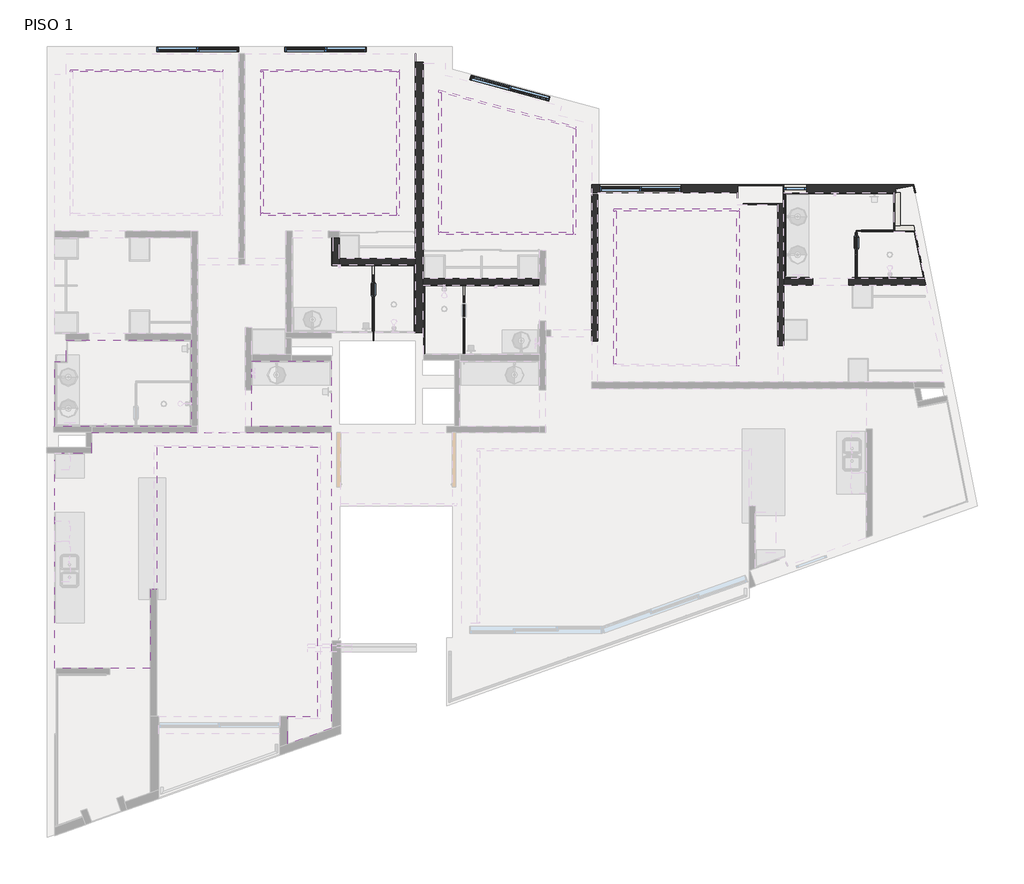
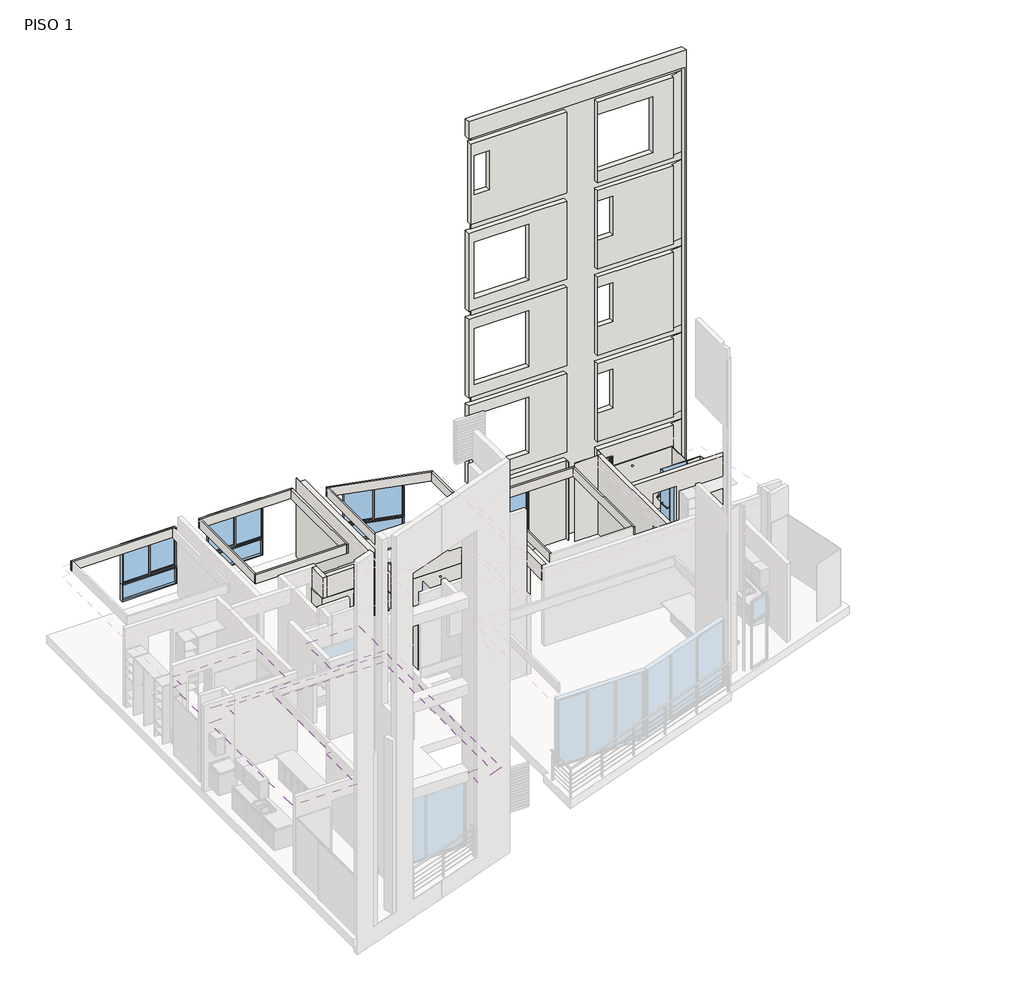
# One storey, part 3 of 4: 41 walls, 9 windows, 3 coverings.
"""IFC4 building model written with IfcOpenShell, lengths in millimetres."""

from ifc_helpers import new_model, si_unit, frame, origin, place, context, project, spatial, polyline, outline, extrude, faceted_brep, transform, mapped, element, save
from components import window_b75bd1a9, window_36b55308, window_504e83ce, window_e5abd41f, window_b7257eee, window_608fdc28, window_9818a119

model = new_model("IFC4")

# Units and contexts
model_context = context("Model", 3, world=origin())
ifc_project = project(units=[si_unit("LENGTHUNIT", "METRE", prefix="MILLI")], contexts=[model_context])

# Site, building, storey
site = spatial("IfcSite", under=ifc_project)
building = spatial("IfcBuilding", under=site)
storey = spatial("IfcBuildingStorey", under=building, Name="PISO 1", Elevation=3000.0)

# Coverings
placement = place(None, origin())
element("IfcCovering", 1, ObjectType="Plafond Tablaroca", at=placement, inside=storey, context=model_context, shape_type="SweptSolid", body=[
    extrude(outline(polyline([(40234.5059119, 31304.0104769), (40234.5059119, 29864.010184), (38484.5059119, 29864.010184), (38484.5059119, 31304.0104769), (39294.5300226, 31304.0104769), (40234.5059119, 31304.0104769)])), frame((0.0, 0.0, 5350.0), z_axis=(0.0, 0.0, 1.0), x_axis=(1.0, 0.0, 0.0)), (0.0, 0.0, 1.0), 52.7),
])
element("IfcCovering", 2, ObjectType="Plafond Tablaroca", at=placement, inside=storey, context=model_context, shape_type="SweptSolid", body=[
    extrude(outline(polyline([(34903.8589874, 29864.010184), (34143.8589874, 29864.010184), (34143.8589874, 31298.9733508), (34398.8589874, 31298.9733508), (34398.8589874, 31768.9733508), (37154.5300226, 31768.9733508), (37154.5300226, 29864.010184), (34903.8589874, 29864.010184)])), frame((0.0, 0.0, 5350.0), z_axis=(0.0, 0.0, 1.0), x_axis=(1.0, 0.0, 0.0)), (0.0, 0.0, 1.0), 52.7),
])
element("IfcCovering", 3, ObjectType="Plafond Tablaroca", at=placement, inside=storey, context=model_context, shape_type="Brep", body=[
    faceted_brep([(34963.8589874, 29274.010184, 5402.7), (34143.8589874, 29274.010184, 5402.7), (34143.8589874, 25532.4819737, 5402.7), (34143.8589874, 24532.4819685, 5402.7), (36254.5300226, 24532.4819685, 5402.7), (36254.5300226, 26269.0176189, 5402.7), (36341.8300226, 26269.0176189, 5402.7), (36394.5300226, 26269.0176189, 5402.7), (36394.5300226, 29394.010184, 5402.7), (39939.5059119, 29394.010184, 5402.7), (39939.5059119, 23470.9402233, 5402.7), (39284.5057602, 23470.9402233, 5402.7), (39284.5057602, 23418.2402233, 5402.7), (39284.5057602, 22864.5526055, 5402.7), (40234.5059119, 23203.0885419, 5402.7), (40234.5059119, 29724.010184, 5402.7), (34963.8589874, 29724.010184, 5402.7), (34963.8589874, 29274.010184, 5350.0), (34963.8589874, 29724.010184, 5350.0), (40234.5059119, 29724.010184, 5350.0), (40234.5059119, 23203.0885419, 5350.0), (39284.5057602, 22864.5526055, 5350.0), (39284.5057602, 23418.2402233, 5350.0), (39284.5057602, 23470.9402233, 5350.0), (39939.5059119, 23470.9402233, 5350.0), (39939.5059119, 29394.010184, 5350.0), (36394.5300226, 29394.010184, 5350.0), (36394.5300226, 26269.0176189, 5350.0), (36254.5300226, 26269.0176189, 5350.0), (36254.5300226, 24532.4819685, 5350.0), (34143.8589874, 24532.4819685, 5350.0), (34143.8589874, 25532.4819737, 5350.0), (34143.8589874, 29274.010184, 5350.0)], [[[0, 1, 2, 3, 4, 5, 6, 7, 8, 9, 10, 11, 12, 13, 14, 15, 16]], [[17, 18, 19, 20, 21, 22, 23, 24, 25, 26, 27, 28, 29, 30, 31, 32]], [[1, 0, 17, 32]], [[2, 1, 32, 31]], [[3, 2, 31, 30]], [[4, 3, 30, 29]], [[5, 4, 29, 28]], [[7, 6, 5, 28, 27]], [[8, 7, 27, 26]], [[9, 8, 26, 25]], [[10, 9, 25, 24]], [[11, 10, 24, 23]], [[12, 11, 23, 22]], [[13, 12, 22, 21]], [[14, 13, 21, 20]], [[15, 14, 20, 19]], [[16, 15, 19, 18]], [[0, 16, 18, 17]]]),
])

# Walls
element("IfcWall", 4, ObjectType="TABLAROCA - 2 CAPAS 1/2\"", at=placement, inside=storey, context=model_context, shape_type="Brep", body=[
    faceted_brep([(52656.6303003, 35014.0104642, 3000.0), (52656.6303003, 34994.0104642, 3000.0), (52656.6303003, 34291.4104642, 3000.0), (52656.6303003, 34291.4104642, 4000.0), (52656.6303003, 35014.0104642, 4000.0), (52774.0303003, 35014.0104642, 3000.0), (52774.0303003, 35014.0104642, 4000.0), (52774.0303003, 34291.4104642, 4000.0), (52774.0303003, 34291.4104642, 3000.0)], [[[0, 1, 2, 3, 4]], [[5, 6, 7, 8]], [[2, 1, 0, 5, 8]], [[4, 3, 7, 6]], [[3, 2, 8, 7]], [[0, 4, 6, 5]]]),
])
element("IfcWall", 5, ObjectType="TABLAROCA - 2 CAPAS 1/2\"", at=placement, inside=storey, context=model_context, shape_type="Brep", body=[
    faceted_brep([(52656.6303003, 34174.0104642, 3000.0), (53100.1136077, 34174.0104642, 3000.0), (53100.1136077, 34174.0104642, 4000.0), (52656.6303003, 34174.0104642, 4000.0), (52656.6303003, 34291.4104642, 3000.0), (52656.6303003, 34291.4104642, 4000.0), (52774.0303003, 34291.4104642, 4000.0), (53076.5996985, 34291.4104642, 4000.0), (53076.5996985, 34291.4104642, 3000.0), (52774.0303003, 34291.4104642, 3000.0)], [[[0, 1, 2, 3]], [[4, 5, 6, 7, 8, 9]], [[1, 0, 4, 9, 8]], [[3, 2, 7, 6, 5]], [[0, 3, 5, 4]], [[2, 1, 8, 7]]]),
])
element("IfcWall", 6, ObjectType="Plafond tablaroca", at=placement, inside=storey, context=model_context, shape_type="Brep", body=[
    faceted_brep([(34491.1589874, 37680.4026232, 5402.7), (34543.8589874, 37680.4026232, 5402.7), (37794.5300226, 37680.4026232, 5402.7), (37847.2300226, 37680.4026232, 5402.7), (37847.2300226, 37680.4026232, 5720.0), (37794.5300226, 37680.4026232, 5720.0), (34543.8589874, 37680.4026232, 5720.0), (34491.1589874, 37680.4026232, 5720.0), (34491.1589874, 37733.1026232, 5402.7), (34491.1589874, 37733.1026232, 5720.0), (37847.2300226, 37733.1026232, 5720.0), (37847.2300226, 37733.1026232, 5402.7)], [[[0, 1, 2, 3, 4, 5, 6, 7]], [[8, 9, 10, 11]], [[4, 3, 11, 10]], [[0, 7, 9, 8]], [[7, 6, 5, 4, 10, 9]], [[3, 2, 1, 0, 8, 11]]]),
])
element("IfcWall", 7, ObjectType="Plafond tablaroca", at=placement, inside=storey, context=model_context, shape_type="Brep", body=[
    faceted_brep([(38681.8300226, 37680.4026232, 5402.7), (38734.5300226, 37680.4026232, 5402.7), (41684.5059119, 37680.4026232, 5402.7), (41737.2059119, 37680.4026232, 5402.7), (41737.2059119, 37680.4026232, 5720.0), (41684.5059119, 37680.4026232, 5720.0), (38734.5300226, 37680.4026232, 5720.0), (38681.8300226, 37680.4026232, 5720.0), (38681.8300226, 37733.1026232, 5402.7), (38681.8300226, 37733.1026232, 5720.0), (41737.2059119, 37733.1026232, 5720.0), (41737.2059119, 37733.1026232, 5402.7)], [[[0, 1, 2, 3, 4, 5, 6, 7]], [[8, 9, 10, 11]], [[4, 3, 11, 10]], [[0, 7, 9, 8]], [[3, 2, 1, 0, 8, 11]], [[7, 6, 5, 4, 10, 9]]]),
])
element("IfcWall", 8, ObjectType="Plafond tablaroca", at=placement, inside=storey, context=model_context, shape_type="Brep", body=[
    faceted_brep([(41684.5059119, 37680.4026232, 5402.7), (41684.5059119, 34568.9785701, 5402.7), (41684.5059119, 34516.2785701, 5402.7), (41684.5059119, 34516.2785701, 5720.0), (41684.5059119, 34568.9785701, 5720.0), (41684.5059119, 37680.4026232, 5720.0), (41737.2059119, 37680.4026232, 5402.7), (41737.2059119, 37680.4026232, 5720.0), (41737.2059119, 34516.2785701, 5720.0), (41737.2059119, 34516.2785701, 5402.7)], [[[0, 1, 2, 3, 4, 5]], [[6, 7, 8, 9]], [[0, 5, 7, 6]], [[3, 2, 9, 8]], [[2, 1, 0, 6, 9]], [[5, 4, 3, 8, 7]]]),
])
element("IfcWall", 9, ObjectType="Plafond tablaroca", at=placement, inside=storey, context=model_context, shape_type="Brep", body=[
    faceted_brep([(41684.5059119, 34568.9785701, 5402.7), (38734.5300226, 34568.9785701, 5402.7), (38681.8300226, 34568.9785701, 5402.7), (38681.8300226, 34568.9785701, 5720.0), (38734.5300226, 34568.9785701, 5720.0), (41684.5059119, 34568.9785701, 5720.0), (41684.5059119, 34516.2785701, 5402.7), (41684.5059119, 34516.2785701, 5720.0), (38681.8300226, 34516.2785701, 5720.0), (38681.8300226, 34516.2785701, 5402.7)], [[[0, 1, 2, 3, 4, 5]], [[6, 7, 8, 9]], [[0, 5, 7, 6]], [[3, 2, 9, 8]], [[2, 1, 0, 6, 9]], [[5, 4, 3, 8, 7]]]),
])
element("IfcWall", 10, ObjectType="Plafond tablaroca", at=placement, inside=storey, context=model_context, shape_type="SweptSolid", body=[
    extrude(outline(polyline([(38734.5300226, 37680.4026232), (38734.5300226, 34568.9785701), (38681.8300226, 34568.9785701), (38681.8300226, 37680.4026232), (38734.5300226, 37680.4026232)])), frame((0.0, 0.0, 5402.7), z_axis=(0.0, 0.0, 1.0), x_axis=(1.0, 0.0, 0.0)), (0.0, 0.0, 1.0), 317.3),
])
element("IfcWall", 11, ObjectType="Plafond tablaroca", at=placement, inside=storey, context=model_context, shape_type="Brep", body=[
    faceted_brep([(42611.8059119, 37233.5489662, 5402.7), (42664.5059119, 37219.3779563, 5402.7), (45574.5059119, 36436.8800645, 5402.7), (45627.2059119, 36422.7090546, 5402.7), (45627.2059119, 36422.7090546, 5720.0), (45574.5059119, 36436.8800645, 5720.0), (42664.5059119, 37219.3779563, 5720.0), (42611.8059119, 37233.5489662, 5720.0), (42611.8059119, 37288.121006, 5402.7), (42611.8059119, 37288.121006, 5720.0), (45627.2059119, 36477.2810943, 5720.0), (45627.2059119, 36477.2810943, 5402.7)], [[[0, 1, 2, 3, 4, 5, 6, 7]], [[8, 9, 10, 11]], [[4, 3, 11, 10]], [[0, 7, 9, 8]], [[3, 2, 1, 0, 8, 11]], [[7, 6, 5, 4, 10, 9]]]),
])
element("IfcWall", 12, ObjectType="Plafond tablaroca", at=placement, inside=storey, context=model_context, shape_type="Brep", body=[
    faceted_brep([(45574.5059119, 36436.8800645, 5402.7), (45574.5059119, 34144.0113905, 5402.7), (45574.5059119, 34091.3113905, 5402.7), (45574.5059119, 34091.3113905, 5720.0), (45574.5059119, 34144.0113905, 5720.0), (45574.5059119, 36436.8800645, 5720.0), (45627.2059119, 36422.7090546, 5402.7), (45627.2059119, 36422.7090546, 5720.0), (45627.2059119, 34091.3113905, 5720.0), (45627.2059119, 34091.3113905, 5402.7)], [[[0, 1, 2, 3, 4, 5]], [[6, 7, 8, 9]], [[0, 5, 7, 6]], [[3, 2, 9, 8]], [[2, 1, 0, 6, 9]], [[5, 4, 3, 8, 7]]]),
])
element("IfcWall", 13, ObjectType="Plafond tablaroca", at=placement, inside=storey, context=model_context, shape_type="Brep", body=[
    faceted_brep([(45574.5059119, 34144.0113905, 5402.7), (42664.5059119, 34144.0113905, 5402.7), (42611.8059119, 34144.0113905, 5402.7), (42611.8059119, 34144.0113905, 5720.0), (42664.5059119, 34144.0113905, 5720.0), (45574.5059119, 34144.0113905, 5720.0), (45574.5059119, 34091.3113905, 5402.7), (45574.5059119, 34091.3113905, 5720.0), (42611.8059119, 34091.3113905, 5720.0), (42611.8059119, 34091.3113905, 5402.7)], [[[0, 1, 2, 3, 4, 5]], [[6, 7, 8, 9]], [[0, 5, 7, 6]], [[3, 2, 9, 8]], [[2, 1, 0, 6, 9]], [[5, 4, 3, 8, 7]]]),
])
element("IfcWall", 14, ObjectType="Plafond tablaroca", at=placement, inside=storey, context=model_context, shape_type="SweptSolid", body=[
    extrude(outline(polyline([(42664.5059119, 37219.3779563), (42664.5059119, 34144.0113905), (42611.8059119, 34144.0113905), (42611.8059119, 37233.5489662), (42664.5059119, 37219.3779563)])), frame((0.0, 0.0, 5402.7), z_axis=(0.0, 0.0, 1.0), x_axis=(1.0, 0.0, 0.0)), (0.0, 0.0, 1.0), 317.3),
])
element("IfcWall", 15, ObjectType="Plafond tablaroca", at=placement, inside=storey, context=model_context, shape_type="Brep", body=[
    faceted_brep([(46461.8059119, 34614.0104642, 5402.7), (46514.5059119, 34614.0104642, 5402.7), (49174.4822189, 34614.0104642, 5402.7), (49227.1822189, 34614.0104642, 5402.7), (49227.1822189, 34614.0104642, 5720.0), (49174.4822189, 34614.0104642, 5720.0), (46514.5059119, 34614.0104642, 5720.0), (46461.8059119, 34614.0104642, 5720.0), (46461.8059119, 34666.7104642, 5402.7), (46461.8059119, 34666.7104642, 5720.0), (49227.1822189, 34666.7104642, 5720.0), (49227.1822189, 34666.7104642, 5402.7)], [[[0, 1, 2, 3, 4, 5, 6, 7]], [[8, 9, 10, 11]], [[4, 3, 11, 10]], [[0, 7, 9, 8]], [[3, 2, 1, 0, 8, 11]], [[7, 6, 5, 4, 10, 9]]]),
])
element("IfcWall", 16, ObjectType="Plafond tablaroca", at=placement, inside=storey, context=model_context, shape_type="Brep", body=[
    faceted_brep([(49174.4822189, 34614.0104642, 5402.7), (49174.4822189, 31244.0100923, 5402.7), (49174.4822189, 31191.3100923, 5402.7), (49174.4822189, 31191.3100923, 5720.0), (49174.4822189, 31244.0100923, 5720.0), (49174.4822189, 34614.0104642, 5720.0), (49227.1822189, 34614.0104642, 5402.7), (49227.1822189, 34614.0104642, 5720.0), (49227.1822189, 31191.3100923, 5720.0), (49227.1822189, 31191.3100923, 5402.7)], [[[0, 1, 2, 3, 4, 5]], [[6, 7, 8, 9]], [[0, 5, 7, 6]], [[3, 2, 9, 8]], [[2, 1, 0, 6, 9]], [[5, 4, 3, 8, 7]]]),
])
element("IfcWall", 17, ObjectType="Plafond tablaroca", at=placement, inside=storey, context=model_context, shape_type="SweptSolid", body=[
    extrude(outline(polyline([(46514.5059119, 34614.0104642), (46514.5059119, 31244.0100923), (46461.8059119, 31244.0100923), (46461.8059119, 34614.0104642), (46514.5059119, 34614.0104642)])), frame((0.0, 0.0, 5402.7), z_axis=(0.0, 0.0, 1.0), x_axis=(1.0, 0.0, 0.0)), (0.0, 0.0, 1.0), 317.3),
])
element("IfcWall", 18, ObjectType="Cerámica baño", at=placement, inside=storey, context=model_context, shape_type="Brep", body=[
    faceted_brep([(40249.5059119, 33408.9784839, 3000.0), (42064.5059119, 33408.9784839, 3000.0), (42084.5059119, 33408.9784839, 3000.0), (42084.5059119, 33408.9784839, 5000.0), (42064.5059119, 33408.9784839, 5000.0), (40249.5059119, 33408.9784839, 5000.0), (40249.5059119, 33428.9784839, 3000.0), (40249.5059119, 33428.9784839, 5000.0), (40269.5059119, 33428.9784839, 5000.0), (42084.5059119, 33428.9784839, 5000.0), (42084.5059119, 33428.9784839, 3000.0), (40269.5059119, 33428.9784839, 3000.0)], [[[0, 1, 2, 3, 4, 5]], [[6, 7, 8, 9, 10, 11]], [[2, 1, 0, 6, 11, 10]], [[5, 4, 3, 9, 8, 7]], [[3, 2, 10, 9]], [[0, 5, 7, 6]]]),
])
element("IfcWall", 19, ObjectType="Cerámica baño", at=placement, inside=storey, context=model_context, shape_type="Brep", body=[
    faceted_brep([(42064.5059119, 33408.9784839, 3000.0), (42064.5059119, 31953.9733508, 3000.0), (42064.5059119, 31933.9733508, 3000.0), (42064.5059119, 31933.9733508, 5000.0), (42064.5059119, 31953.9733508, 5000.0), (42064.5059119, 33408.9784839, 5000.0), (42084.5059119, 33408.9784839, 3000.0), (42084.5059119, 33408.9784839, 5000.0), (42084.5059119, 31933.9733508, 5000.0), (42084.5059119, 31933.9733508, 3000.0)], [[[0, 1, 2, 3, 4, 5]], [[6, 7, 8, 9]], [[2, 1, 0, 6, 9]], [[5, 4, 3, 8, 7]], [[3, 2, 9, 8]], [[0, 5, 7, 6]]]),
])
element("IfcWall", 20, ObjectType="Cerámica baño", at=placement, inside=storey, context=model_context, shape_type="Brep", body=[
    faceted_brep([(52636.6303003, 34994.0104642, 3000.0), (52636.6303003, 34154.0104642, 3000.0), (52636.6303003, 34154.0104642, 5000.0), (52636.6303003, 34994.0104642, 5000.0), (52656.6303003, 34994.0104642, 3000.0), (52656.6303003, 34994.0104642, 5000.0), (52656.6303003, 34174.0104642, 5000.0), (52656.6303003, 34154.0104642, 5000.0), (52656.6303003, 34154.0104642, 3000.0), (52656.6303003, 34174.0104642, 3000.0)], [[[0, 1, 2, 3]], [[4, 5, 6, 7, 8, 9]], [[1, 0, 4, 9, 8]], [[3, 2, 7, 6, 5]], [[2, 1, 8, 7]], [[0, 3, 5, 4]]]),
])
element("IfcWall", 21, ObjectType="Cerámica baño", at=placement, inside=storey, context=model_context, shape_type="Brep", body=[
    faceted_brep([(52656.6303003, 34154.0104642, 5000.0), (52656.6303003, 34154.0104642, 3000.0), (53083.7221726, 34154.0104642, 3000.0), (53104.1193844, 34154.0104642, 3000.0), (53104.1193844, 34154.0104642, 5000.0), (53083.7221726, 34154.0104642, 5000.0), (52656.6303003, 34174.0104642, 3000.0), (52656.6303003, 34174.0104642, 5000.0), (53100.1136077, 34174.0104642, 5000.0), (53100.1136077, 34174.0104642, 3000.0)], [[[0, 1, 2, 3, 4, 5]], [[6, 7, 8, 9]], [[3, 2, 1, 6, 9]], [[0, 5, 4, 8, 7]], [[4, 3, 9, 8]], [[0, 7, 6, 1]]]),
])
element("IfcWall", 22, ObjectType="Cerámica baño", at=placement, inside=storey, context=model_context, shape_type="Brep", body=[
    faceted_brep([(53083.7221726, 34154.0104642, 3000.0), (53286.0137116, 33144.0113812, 3000.0), (53290.0194883, 33124.0113812, 3000.0), (53290.0194883, 33124.0113812, 5000.0), (53286.0137116, 33144.0113812, 5000.0), (53083.7221726, 34154.0104642, 5000.0), (53104.1193844, 34154.0104642, 3000.0), (53104.1193844, 34154.0104642, 5000.0), (53310.4167001, 33124.0113812, 5000.0), (53310.4167001, 33124.0113812, 3000.0)], [[[0, 1, 2, 3, 4, 5]], [[6, 7, 8, 9]], [[2, 1, 0, 6, 9]], [[5, 4, 3, 8, 7]], [[3, 2, 9, 8]], [[0, 5, 7, 6]]]),
])
element("IfcWall", 23, ObjectType="Cerámica baño", at=placement, inside=storey, context=model_context, shape_type="SweptSolid", body=[
    extrude(outline(polyline([(51719.4822189, 33144.0113812), (53286.0137116, 33144.0113812), (53290.0194883, 33124.0113812), (51719.4822189, 33124.0113812), (51719.4822189, 33144.0113812)])), frame((0.0, 0.0, 3000.0), z_axis=(0.0, 0.0, 1.0), x_axis=(1.0, 0.0, 0.0)), (0.0, 0.0, 1.0), 2000.0),
])
element("IfcWall", 24, ObjectType="Cerámica baño", at=placement, inside=storey, context=model_context, shape_type="Brep", body=[
    faceted_brep([(50769.4822189, 33144.0113812, 3000.0), (50234.4822189, 33144.0113812, 3000.0), (50214.4822189, 33144.0113812, 3000.0), (50214.4822189, 33144.0113812, 5000.0), (50234.4822189, 33144.0113812, 5000.0), (50769.4822189, 33144.0113812, 5000.0), (50769.4822189, 33124.0113812, 3000.0), (50769.4822189, 33124.0113812, 5000.0), (50214.4822189, 33124.0113812, 5000.0), (50214.4822189, 33124.0113812, 3000.0)], [[[0, 1, 2, 3, 4, 5]], [[6, 7, 8, 9]], [[2, 1, 0, 6, 9]], [[5, 4, 3, 8, 7]], [[0, 5, 7, 6]], [[3, 2, 9, 8]]]),
])
element("IfcWall", 25, ObjectType="Cerámica baño", at=placement, inside=storey, context=model_context, shape_type="Brep", body=[
    faceted_brep([(50234.4822189, 33144.0113812, 3000.0), (50234.4822189, 34994.0104642, 3000.0), (50234.4822189, 35014.0104642, 3000.0), (50234.4822189, 35014.0104642, 4000.0), (50234.4822189, 35014.0104642, 5000.0), (50234.4822189, 33144.0113812, 5000.0), (50214.4822189, 33144.0113812, 3000.0), (50214.4822189, 33144.0113812, 5000.0), (50214.4822189, 35014.0104642, 5000.0), (50214.4822189, 35014.0104642, 3000.0)], [[[0, 1, 2, 3, 4, 5]], [[6, 7, 8, 9]], [[2, 1, 0, 6, 9]], [[5, 4, 8, 7]], [[0, 5, 7, 6]], [[4, 3, 2, 9, 8]]]),
])
element("IfcWall", 26, ObjectType="Cerámica baño", at=placement, inside=storey, context=model_context, shape_type="Brep", body=[
    faceted_brep([(42299.5059119, 31464.0104754, 3000.0), (42299.5059119, 32963.9839575, 3000.0), (42299.5059119, 32983.9839575, 3000.0), (42299.5059119, 32983.9839575, 5000.0), (42299.5059119, 32963.9839575, 5000.0), (42299.5059119, 31464.0104754, 5000.0), (42279.5059119, 31464.0104754, 3000.0), (42279.5059119, 31464.0104754, 5000.0), (42279.5059119, 32983.9839575, 5000.0), (42279.5059119, 32983.9839575, 3000.0)], [[[0, 1, 2, 3, 4, 5]], [[6, 7, 8, 9]], [[2, 1, 0, 6, 9]], [[5, 4, 3, 8, 7]], [[3, 2, 9, 8]], [[0, 5, 7, 6]]]),
])
element("IfcWall", 27, ObjectType="Cerámica baño", at=placement, inside=storey, context=model_context, shape_type="SweptSolid", body=[
    extrude(outline(polyline([(44824.5251366, 32963.9839575), (42299.5059119, 32963.9839575), (42299.5059119, 32983.9839575), (44824.5251366, 32983.9839575), (44824.5251366, 32963.9839575)])), frame((0.0, 0.0, 3000.0), z_axis=(0.0, 0.0, 1.0), x_axis=(1.0, 0.0, 0.0)), (0.0, 0.0, 1.0), 2000.0),
])
element("IfcWall", 28, ObjectType="Cerámica baño", at=placement, inside=storey, context=model_context, shape_type="SweptSolid", body=[
    extrude(outline(polyline([(40269.5059119, 34028.9785701), (40269.5059119, 33428.9784839), (40249.5059119, 33428.9784839), (40249.5059119, 34028.9785701), (40269.5059119, 34028.9785701)])), frame((0.0, 0.0, 3000.0), z_axis=(0.0, 0.0, 1.0), x_axis=(1.0, 0.0, 0.0)), (0.0, 0.0, 1.0), 2000.0),
])
element("IfcWall", 29, ObjectType="Cerámica baño", at=placement, inside=storey, context=model_context, shape_type="Brep", body=[
    faceted_brep([(52656.6303003, 35014.0104642, 5000.0), (52656.6303003, 35014.0104642, 4000.0), (52656.6303003, 35014.0104642, 3000.0), (50234.4822189, 35014.0104642, 3000.0), (50234.4822189, 35014.0104642, 4000.0), (50714.4822189, 35014.0104642, 4000.0), (50714.4822189, 35014.0104642, 5000.0), (52656.6303003, 34994.0104642, 3000.0), (52656.6303003, 34994.0104642, 5000.0), (52636.6303003, 34994.0104642, 5000.0), (50714.4822189, 34994.0104642, 5000.0), (50714.4822189, 34994.0104642, 4000.0), (50234.4822189, 34994.0104642, 4000.0), (50234.4822189, 34994.0104642, 3000.0), (52636.6303003, 34994.0104642, 3000.0)], [[[0, 1, 2, 3, 4, 5, 6]], [[7, 8, 9, 10, 11, 12, 13, 14]], [[3, 2, 7, 14, 13]], [[0, 6, 10, 9, 8]], [[5, 4, 12, 11]], [[6, 5, 11, 10]], [[4, 3, 13, 12]], [[0, 8, 7, 2, 1]]]),
])
element("IfcWall", 30, ObjectType="Cerámica baño", at=placement, inside=storey, context=model_context, shape_type="SweptSolid", body=[
    extrude(outline(polyline([(52656.6303003, 34174.0104642), (53079.7163959, 34174.0104642), (53083.7221726, 34154.0104642), (52656.6303003, 34154.0104642), (52656.6303003, 34174.0104642)])), frame((0.0, 0.0, 3000.0), z_axis=(0.0, 0.0, 1.0), x_axis=(1.0, 0.0, 0.0)), (0.0, 0.0, 1.0), 2000.0),
])
element("IfcWall", 31, ObjectType="Muro block 14cms_int", at=placement, inside=storey, context=model_context, shape_type="Brep", body=[
    faceted_brep([(42264.5059119, 32984.0113856, 3000.0), (44824.5251366, 32984.0113856, 3000.0), (44824.5251366, 32984.0113856, 5200.0), (44824.5251366, 32984.0113856, 5720.0), (42264.5059119, 32984.0113856, 5720.0), (42264.5059119, 33124.0113856, 3000.0), (42264.5059119, 33124.0113856, 5720.0), (44824.5251366, 33124.0113856, 5720.0), (44824.5251366, 33124.0113856, 3000.0)], [[[0, 1, 2, 3, 4]], [[5, 6, 7, 8]], [[1, 0, 5, 8]], [[3, 2, 1, 8, 7]], [[0, 4, 6, 5]], [[4, 3, 7, 6]]]),
])
element("IfcWall", 32, ObjectType="Muro block 14cms_int", at=placement, inside=storey, context=model_context, shape_type="Brep", body=[
    faceted_brep([(45974.5059119, 34974.0104642, 5720.0), (45974.5059119, 34974.0104642, 3000.0), (45974.5059119, 31744.0100923, 3000.0), (45974.5059119, 31744.0100923, 5200.0), (45974.5059119, 30844.0100923, 5200.0), (45974.5059119, 30844.0100923, 5720.0), (45974.5059119, 31844.0100923, 5720.0), (45974.5059119, 31984.0100923, 5720.0), (46114.5059119, 34974.0104642, 3000.0), (46114.5059119, 34974.0104642, 5720.0), (46114.5059119, 30844.0100923, 5720.0), (46114.5059119, 30844.0100923, 5200.0), (46114.5059119, 31744.0100923, 5200.0), (46114.5059119, 31744.0100923, 3000.0)], [[[0, 1, 2, 3, 4, 5, 6, 7]], [[8, 9, 10, 11, 12, 13]], [[1, 8, 13, 2]], [[1, 0, 9, 8]], [[3, 12, 11, 4]], [[12, 3, 2, 13]], [[10, 5, 4, 11]], [[0, 7, 6, 5, 10, 9]]]),
])
element("IfcWall", 33, ObjectType="Muro block 14cms_int", at=placement, inside=storey, context=model_context, shape_type="Brep", body=[
    faceted_brep([(50074.4822189, 31644.0100923, 5200.0), (50074.4822189, 30844.0100923, 5200.0), (50074.4822189, 30844.0100923, 5720.0), (50074.4822189, 34774.0104642, 5720.0), (50074.4822189, 34774.0104642, 3000.0), (50074.4822189, 31644.0100923, 3000.0), (50214.4822189, 35014.0104642, 3000.0), (50214.4822189, 35014.0104642, 4000.0), (50214.4822189, 35014.0104642, 5350.0), (50214.4822189, 35014.0104642, 5720.0), (50214.4822189, 33124.0113812, 5720.0), (50214.4822189, 32984.0113812, 5720.0), (50214.4822189, 30844.0100923, 5720.0), (50214.4822189, 30844.0100923, 5200.0), (50214.4822189, 31644.0100923, 5200.0), (50214.4822189, 31644.0100923, 3000.0), (50214.4822189, 32984.0113812, 3000.0), (50214.4822189, 33124.0113812, 3000.0), (50194.4822189, 34774.0104642, 3000.0), (50194.4822189, 35014.0104642, 3000.0), (50194.4822189, 35014.0104642, 5720.0), (50194.4822189, 34774.0104642, 5720.0)], [[[0, 1, 2, 3, 4, 5]], [[6, 7, 8, 9, 10, 11, 12, 13, 14, 15, 16, 17]], [[6, 17, 16, 15, 5, 4, 18, 19]], [[9, 8, 7, 6, 19, 20]], [[0, 14, 13, 1]], [[14, 0, 5, 15]], [[2, 1, 13, 12]], [[18, 21, 20, 19]], [[21, 18, 4, 3]], [[2, 12, 11, 10, 9, 20, 21, 3]]]),
])
element("IfcWall", 34, ObjectType="Muro block 14cms_int", at=placement, inside=storey, context=model_context, shape_type="Brep", body=[
    faceted_brep([(53310.4167001, 33124.0113812, 5720.0), (53310.4167001, 33124.0113812, 3000.0), (51644.4822189, 33124.0113812, 3000.0), (51644.4822189, 33124.0113812, 5200.0), (50844.4822189, 33124.0113812, 5200.0), (50844.4822189, 33124.0113812, 3000.0), (50214.4822189, 33124.0113812, 3000.0), (50214.4822189, 33124.0113812, 5720.0), (53338.4571369, 32984.0113812, 3000.0), (53338.4571369, 32984.0113812, 5720.0), (50214.4822189, 32984.0113812, 5720.0), (50214.4822189, 32984.0113812, 3000.0), (50844.4822189, 32984.0113812, 3000.0), (50844.4822189, 32984.0113812, 5200.0), (51644.4822189, 32984.0113812, 5200.0), (51644.4822189, 32984.0113812, 3000.0)], [[[0, 1, 2, 3, 4, 5, 6, 7]], [[8, 9, 10, 11, 12, 13, 14, 15]], [[1, 8, 15, 2]], [[11, 6, 5, 12]], [[1, 0, 9, 8]], [[7, 6, 11, 10]], [[4, 13, 12, 5]], [[13, 4, 3, 14]], [[14, 3, 2, 15]], [[0, 7, 10, 9]]]),
])
element("IfcWall", 35, ObjectType="Muro block 14cms_int", at=placement, inside=storey, context=model_context, shape_type="Brep", body=[
    faceted_brep([(40269.5059119, 34028.9785701, 3000.0), (40269.5059119, 33428.9784839, 3000.0), (40269.5059119, 33428.9784839, 5720.0), (40269.5059119, 34028.9785701, 5720.0), (40409.5059119, 34028.9785701, 3000.0), (40409.5059119, 34028.9785701, 5720.0), (40409.5059119, 33568.9784839, 5720.0), (40409.5059119, 33428.9784839, 5720.0), (40409.5059119, 33428.9784839, 3000.0), (40409.5059119, 33568.9784839, 3000.0)], [[[0, 1, 2, 3]], [[4, 5, 6, 7, 8, 9]], [[1, 0, 4, 9, 8]], [[0, 3, 5, 4]], [[2, 1, 8, 7]], [[3, 2, 7, 6, 5]]]),
])
element("IfcWall", 36, ObjectType="Muro block 14cms_int", at=placement, inside=storey, context=model_context, shape_type="SweptSolid", body=[
    extrude(outline(polyline([(42084.5059119, 33428.9784839), (40409.5059119, 33428.9784839), (40409.5059119, 33568.9784839), (42084.5059119, 33568.9784839), (42084.5059119, 33428.9784839)])), frame((0.0, 0.0, 3000.0), z_axis=(0.0, 0.0, 1.0), x_axis=(1.0, 0.0, 0.0)), (0.0, 0.0, 1.0), 2720.0),
])
element("IfcWall", 37, ObjectType="Muro block 14cms_int", at=placement, inside=storey, context=model_context, shape_type="SweptSolid", body=[
    extrude(outline(polyline([(50069.4822189, 34759.0104642), (49319.4822189, 34759.0104642), (49319.4822189, 34774.0104642), (50069.4822189, 34774.0104642), (50069.4822189, 34759.0104642)])), frame((0.0, 0.0, 3000.0), z_axis=(0.0, 0.0, 1.0), x_axis=(1.0, 0.0, 0.0)), (0.0, 0.0, 1.0), 2720.0),
])
element("IfcWall", 38, ObjectType="Muro block 14cms_int", at=placement, inside=storey, context=model_context, shape_type="SweptSolid", body=[
    extrude(outline(polyline([(49179.4822189, 34899.0104642), (49179.4822189, 35014.0104642), (49194.4822189, 35014.0104642), (49194.4822189, 34899.0104642), (49179.4822189, 34899.0104642)])), frame((0.0, 0.0, 3000.0), z_axis=(0.0, 0.0, 1.0), x_axis=(1.0, 0.0, 0.0)), (0.0, 0.0, 1.0), 2720.0),
])
element("IfcWall", 39, ObjectType="Muro block 18cms_ext", at=placement, inside=storey, context=model_context, shape_type="Brep", body=[
    faceted_brep([(53115.4458925, 35014.0104642, 18600.0), (52931.8709868, 35014.0104642, 18600.0), (45974.5059119, 35014.0104642, 18600.0), (45974.5059119, 35014.0104642, 18000.0), (52931.8709868, 35014.0104642, 18000.0), (53095.0486808, 35014.0104642, 18000.0), (53095.0486808, 35014.0104642, 16000.0), (53095.0486808, 35014.0104642, 15000.0), (53095.0486808, 35014.0104642, 14720.0), (53095.0486808, 35014.0104642, 3000.0), (53115.4458925, 35014.0104642, 3000.0), (53115.4458925, 35014.0104642, 16000.0), (49194.4822189, 35014.0104642, 11720.0), (45974.5059119, 35014.0104642, 11720.0), (45974.5059119, 35014.0104642, 9000.0), (49194.4822189, 35014.0104642, 9000.0), (47954.5059119, 35014.0104642, 11350.0), (47954.5059119, 35014.0104642, 9400.0), (46154.5059119, 35014.0104642, 9400.0), (46154.5059119, 35014.0104642, 11350.0), (49194.4822189, 35014.0104642, 8720.0), (45974.5059119, 35014.0104642, 8720.0), (45974.5059119, 35014.0104642, 6000.0), (49194.4822189, 35014.0104642, 6000.0), (47954.5059119, 35014.0104642, 8350.0), (47954.5059119, 35014.0104642, 6400.0), (46154.5059119, 35014.0104642, 6400.0), (46154.5059119, 35014.0104642, 8350.0), (50194.4822189, 35014.0104642, 11720.0), (50194.4822189, 35014.0104642, 9000.0), (52636.6303003, 35014.0104642, 9000.0), (52656.6303003, 35014.0104642, 9000.0), (52687.1044459, 35014.0104642, 9000.0), (52687.1044459, 35014.0104642, 11720.0), (50714.4822189, 35014.0104642, 11350.0), (50714.4822189, 35014.0104642, 10000.0), (50214.4822189, 35014.0104642, 10000.0), (50214.4822189, 35014.0104642, 11350.0), (45974.5059119, 35014.0104642, 3000.0), (49179.4822189, 35014.0104642, 3000.0), (49194.4822189, 35014.0104642, 3000.0), (49194.4822189, 35014.0104642, 5720.0), (49179.4822189, 35014.0104642, 5720.0), (45974.5059119, 35014.0104642, 5720.0), (47954.5059119, 35014.0104642, 5350.0), (47954.5059119, 35014.0104642, 3400.0), (46154.5059119, 35014.0104642, 3400.0), (46154.5059119, 35014.0104642, 5350.0), (50194.4822189, 35014.0104642, 12000.0), (52687.1044459, 35014.0104642, 12000.0), (52687.1044459, 35014.0104642, 14720.0), (50194.4822189, 35014.0104642, 14720.0), (50714.4822189, 35014.0104642, 14350.0), (50714.4822189, 35014.0104642, 13000.0), (50214.4822189, 35014.0104642, 13000.0), (50214.4822189, 35014.0104642, 14350.0), (50194.4822189, 35014.0104642, 5720.0), (50194.4822189, 35014.0104642, 3000.0), (50214.4822189, 35014.0104642, 3000.0), (52687.1044459, 35014.0104642, 3000.0), (52687.1044459, 35014.0104642, 5720.0), (50214.4822189, 35014.0104642, 5720.0), (50714.4822189, 35014.0104642, 5350.0), (50714.4822189, 35014.0104642, 4000.0), (50214.4822189, 35014.0104642, 4000.0), (50214.4822189, 35014.0104642, 5350.0), (50194.4822189, 35014.0104642, 8720.0), (50194.4822189, 35014.0104642, 6000.0), (50209.4822189, 35014.0104642, 6000.0), (50214.4822189, 35014.0104642, 6000.0), (52636.6303003, 35014.0104642, 6000.0), (52656.6303003, 35014.0104642, 6000.0), (52687.1044459, 35014.0104642, 6000.0), (52687.1044459, 35014.0104642, 8720.0), (50214.4822189, 35014.0104642, 8720.0), (50714.4822189, 35014.0104642, 8350.0), (50714.4822189, 35014.0104642, 7000.0), (50214.4822189, 35014.0104642, 7000.0), (50214.4822189, 35014.0104642, 8350.0), (45974.5059119, 35014.0104642, 12000.0), (46114.5059119, 35014.0104642, 12000.0), (47954.5059119, 35014.0104642, 12000.0), (48071.9059119, 35014.0104642, 12000.0), (49194.4822189, 35014.0104642, 12000.0), (49194.4822189, 35014.0104642, 14720.0), (48071.9059119, 35014.0104642, 14720.0), (47954.5059119, 35014.0104642, 14720.0), (46114.5059119, 35014.0104642, 14720.0), (45974.5059119, 35014.0104642, 14720.0), (47954.5059119, 35014.0104642, 14350.0), (47954.5059119, 35014.0104642, 12400.0), (46154.5059119, 35014.0104642, 12400.0), (46154.5059119, 35014.0104642, 14350.0), (52687.1044459, 35014.0104642, 17800.0), (50214.4822189, 35014.0104642, 17800.0), (50194.4822189, 35014.0104642, 17800.0), (50194.4822189, 35014.0104642, 15000.0), (50214.4822189, 35014.0104642, 15000.0), (52687.1044459, 35014.0104642, 15000.0), (50214.4822189, 35014.0104642, 15400.0), (50214.4822189, 35014.0104642, 17350.0), (52014.4822189, 35014.0104642, 17350.0), (52014.4822189, 35014.0104642, 15400.0), (46044.5059119, 35014.0104642, 17800.0), (46044.5059119, 35014.0104642, 15000.0), (49174.4822189, 35014.0104642, 15000.0), (49194.4822189, 35014.0104642, 15000.0), (49194.4822189, 35014.0104642, 17800.0), (49174.4822189, 35014.0104642, 17800.0), (46154.5059119, 35014.0104642, 16000.0), (46154.5059119, 35014.0104642, 17350.0), (46654.5059119, 35014.0104642, 17350.0), (46654.5059119, 35014.0104642, 16000.0), (53079.3939023, 35194.0104642, 3000.0), (52895.8189966, 35194.0104642, 3000.0), (46134.5059119, 35194.0104642, 3000.0), (45974.5059119, 35194.0104642, 3000.0), (45974.5059119, 35194.0104642, 5720.0), (46134.5059119, 35194.0104642, 5720.0), (46134.5059119, 35194.0104642, 6000.0), (45974.5059119, 35194.0104642, 6000.0), (45974.5059119, 35194.0104642, 8720.0), (46134.5059119, 35194.0104642, 8720.0), (46134.5059119, 35194.0104642, 9000.0), (45974.5059119, 35194.0104642, 9000.0), (45974.5059119, 35194.0104642, 11720.0), (46134.5059119, 35194.0104642, 11720.0), (46134.5059119, 35194.0104642, 12000.0), (45974.5059119, 35194.0104642, 12000.0), (45974.5059119, 35194.0104642, 14720.0), (46134.5059119, 35194.0104642, 14720.0), (46134.5059119, 35194.0104642, 15000.0), (46044.5059119, 35194.0104642, 15000.0), (46044.5059119, 35194.0104642, 17800.0), (46134.5059119, 35194.0104642, 17800.0), (46134.5059119, 35194.0104642, 18000.0), (45974.5059119, 35194.0104642, 18000.0), (45974.5059119, 35194.0104642, 18600.0), (46154.5059119, 35194.0104642, 18600.0), (53079.3939023, 35194.0104642, 18600.0), (47954.5059119, 35194.0104642, 3400.0), (47954.5059119, 35194.0104642, 5350.0), (46154.5059119, 35194.0104642, 5350.0), (46154.5059119, 35194.0104642, 3400.0), (47954.5059119, 35194.0104642, 6400.0), (47954.5059119, 35194.0104642, 8350.0), (46154.5059119, 35194.0104642, 8350.0), (46154.5059119, 35194.0104642, 6400.0), (47954.5059119, 35194.0104642, 9400.0), (47954.5059119, 35194.0104642, 11350.0), (46154.5059119, 35194.0104642, 11350.0), (46154.5059119, 35194.0104642, 9400.0), (47954.5059119, 35194.0104642, 12400.0), (47954.5059119, 35194.0104642, 14350.0), (46154.5059119, 35194.0104642, 14350.0), (46154.5059119, 35194.0104642, 12400.0), (50714.4822189, 35194.0104642, 13000.0), (50714.4822189, 35194.0104642, 14350.0), (50214.4822189, 35194.0104642, 14350.0), (50214.4822189, 35194.0104642, 13000.0), (50714.4822189, 35194.0104642, 4000.0), (50714.4822189, 35194.0104642, 5350.0), (50214.4822189, 35194.0104642, 5350.0), (50214.4822189, 35194.0104642, 4000.0), (50714.4822189, 35194.0104642, 10000.0), (50714.4822189, 35194.0104642, 11350.0), (50214.4822189, 35194.0104642, 11350.0), (50214.4822189, 35194.0104642, 10000.0), (46154.5059119, 35194.0104642, 17350.0), (46154.5059119, 35194.0104642, 16000.0), (46654.5059119, 35194.0104642, 16000.0), (46654.5059119, 35194.0104642, 17350.0), (50714.4822189, 35194.0104642, 7000.0), (50714.4822189, 35194.0104642, 8350.0), (50214.4822189, 35194.0104642, 8350.0), (50214.4822189, 35194.0104642, 7000.0), (50214.4822189, 35194.0104642, 17350.0), (50214.4822189, 35194.0104642, 15400.0), (52014.4822189, 35194.0104642, 15400.0), (52014.4822189, 35194.0104642, 17350.0), (53063.0024673, 35174.0104642, 3000.0), (52670.7919975, 35095.4550864, 3000.0), (50194.4822189, 35174.0104642, 3000.0), (49194.4822189, 35174.0104642, 3000.0), (49194.4822189, 35174.0104642, 17800.0), (46134.5059119, 35174.0104642, 17800.0), (46044.5059119, 35154.0104642, 17800.0), (50194.4822189, 35174.0104642, 17800.0), (52670.7919975, 35095.4550864, 17800.0), (53063.0024673, 35174.0104642, 17800.0), (46134.5059119, 35174.0104642, 18000.0), (53063.0024673, 35174.0104642, 18000.0), (49194.4822189, 35174.0104642, 15000.0), (46134.5059119, 35174.0104642, 15000.0), (46134.5059119, 35174.0104642, 14720.0), (49194.4822189, 35174.0104642, 14720.0), (49194.4822189, 35174.0104642, 12000.0), (46134.5059119, 35174.0104642, 12000.0), (46134.5059119, 35174.0104642, 11720.0), (49194.4822189, 35174.0104642, 11720.0), (49194.4822189, 35174.0104642, 9000.0), (46134.5059119, 35174.0104642, 9000.0), (46134.5059119, 35174.0104642, 8720.0), (49194.4822189, 35174.0104642, 8720.0), (49194.4822189, 35174.0104642, 6000.0), (46134.5059119, 35174.0104642, 6000.0), (46134.5059119, 35174.0104642, 5720.0), (49194.4822189, 35174.0104642, 5720.0), (50194.4822189, 35174.0104642, 5720.0), (53063.0024673, 35174.0104642, 5720.0), (53063.0024673, 35174.0104642, 6000.0), (50194.4822189, 35174.0104642, 6000.0), (50194.4822189, 35174.0104642, 8720.0), (53063.0024673, 35174.0104642, 8720.0), (53063.0024673, 35174.0104642, 9000.0), (50194.4822189, 35174.0104642, 9000.0), (50194.4822189, 35174.0104642, 11720.0), (53063.0024673, 35174.0104642, 11720.0), (53063.0024673, 35174.0104642, 12000.0), (50194.4822189, 35174.0104642, 12000.0), (50194.4822189, 35174.0104642, 14720.0), (53063.0024673, 35174.0104642, 14720.0), (53063.0024673, 35174.0104642, 15000.0), (50194.4822189, 35174.0104642, 15000.0), (52670.7919975, 35095.4550864, 11720.0), (52670.7919975, 35095.4550864, 12000.0), (52670.7919975, 35095.4550864, 8720.0), (52670.7919975, 35095.4550864, 9000.0), (52670.7919975, 35095.4550864, 5720.0), (52670.7919975, 35095.4550864, 6000.0), (52670.7919975, 35095.4550864, 14720.0), (52670.7919975, 35095.4550864, 15000.0), (46044.5059119, 35154.0104642, 15000.0)], [[[0, 1, 2, 3, 4, 5, 6, 7, 8, 9, 10, 11]], [[12, 13, 14, 15], [16, 17, 18, 19]], [[20, 21, 22, 23], [24, 25, 26, 27]], [[28, 29, 30, 31, 32, 33], [34, 35, 36, 37]], [[38, 39, 40, 41, 42, 43], [44, 45, 46, 47]], [[48, 49, 50, 51], [52, 53, 54, 55]], [[56, 57, 58, 59, 60, 61], [62, 63, 64, 65]], [[66, 67, 68, 69, 70, 71, 72, 73, 74], [75, 76, 77, 78]], [[79, 80, 81, 82, 83, 84, 85, 86, 87, 88], [89, 90, 91, 92]], [[93, 94, 95, 96, 97, 98], [99, 100, 101, 102]], [[103, 104, 105, 106, 107, 108], [109, 110, 111, 112]], [[113, 114, 115, 116, 117, 118, 119, 120, 121, 122, 123, 124, 125, 126, 127, 128, 129, 130, 131, 132, 133, 134, 135, 136, 137, 138, 139], [140, 141, 142, 143], [144, 145, 146, 147], [148, 149, 150, 151], [152, 153, 154, 155], [156, 157, 158, 159], [160, 161, 162, 163], [164, 165, 166, 167], [168, 169, 170, 171], [172, 173, 174, 175], [176, 177, 178, 179]], [[116, 115, 114, 113, 10, 9, 180, 181, 59, 58, 57, 182, 183, 40, 39, 38]], [[2, 1, 0, 139, 138, 137]], [[141, 140, 45, 44]], [[142, 141, 44, 47]], [[143, 142, 47, 46]], [[140, 143, 46, 45]], [[145, 144, 25, 24]], [[146, 145, 24, 27]], [[147, 146, 27, 26]], [[144, 147, 26, 25]], [[149, 148, 17, 16]], [[150, 149, 16, 19]], [[151, 150, 19, 18]], [[148, 151, 18, 17]], [[153, 152, 90, 89]], [[154, 153, 89, 92]], [[155, 154, 92, 91]], [[152, 155, 91, 90]], [[157, 156, 53, 52]], [[158, 157, 52, 55]], [[159, 158, 55, 54]], [[156, 159, 54, 53]], [[161, 160, 63, 62]], [[162, 161, 62, 65]], [[163, 162, 65, 64]], [[160, 163, 64, 63]], [[165, 164, 35, 34]], [[166, 165, 34, 37]], [[167, 166, 37, 36]], [[164, 167, 36, 35]], [[107, 184, 185, 134, 133, 186, 103, 108]], [[187, 95, 94, 93, 188, 189]], [[190, 191, 5, 4, 3, 136, 135]], [[191, 190, 185, 184, 192, 193, 194, 195, 196, 197, 198, 199, 200, 201, 202, 203, 204, 205, 206, 207, 183, 182, 208, 209, 210, 211, 212, 213, 214, 215, 216, 217, 218, 219, 220, 221, 222, 223, 187, 189]], [[110, 109, 169, 168]], [[111, 110, 168, 171]], [[112, 111, 171, 170]], [[109, 112, 170, 169]], [[13, 12, 199, 198, 126, 125]], [[216, 28, 33, 224, 217]], [[48, 219, 218, 225, 49]], [[83, 82, 81, 80, 79, 128, 127, 197, 196]], [[218, 217, 214, 213, 210, 209, 180, 9, 8, 7, 6, 5, 191, 189, 222, 221]], [[21, 20, 203, 202, 122, 121]], [[212, 66, 74, 73, 226, 213]], [[15, 14, 124, 123, 201, 200]], [[29, 215, 214, 227, 32, 31, 30]], [[208, 56, 61, 60, 228, 209]], [[43, 42, 41, 207, 206, 118, 117]], [[23, 22, 120, 119, 205, 204]], [[67, 211, 210, 229, 72, 71, 70, 69, 68]], [[219, 48, 51, 220]], [[95, 187, 223, 96]], [[216, 215, 29, 28]], [[212, 211, 67, 66]], [[208, 182, 57, 56]], [[83, 196, 195, 84]], [[184, 107, 106, 192]], [[200, 199, 12, 15]], [[204, 203, 20, 23]], [[183, 207, 41, 40]], [[49, 225, 230, 50]], [[227, 224, 33, 32]], [[229, 226, 73, 72]], [[181, 228, 60, 59]], [[188, 93, 98, 231]], [[225, 218, 221, 230]], [[214, 217, 224, 227]], [[210, 213, 226, 229]], [[180, 209, 228, 181]], [[189, 188, 231, 222]], [[173, 172, 76, 75]], [[174, 173, 75, 78]], [[175, 174, 78, 77]], [[172, 175, 77, 76]], [[10, 113, 139, 0, 11]], [[185, 190, 135, 134]], [[198, 197, 127, 126]], [[202, 201, 123, 122]], [[206, 205, 119, 118]], [[100, 99, 177, 176]], [[101, 100, 176, 179]], [[102, 101, 179, 178]], [[99, 102, 178, 177]], [[104, 103, 186, 133, 132, 232]], [[116, 38, 43, 117]], [[13, 125, 124, 14]], [[128, 79, 88, 129]], [[21, 121, 120, 22]], [[2, 137, 136, 3]], [[221, 220, 51, 50, 230]], [[195, 194, 130, 129, 88, 87, 86, 85, 84]], [[223, 222, 231, 98, 97, 96]], [[193, 192, 106, 105, 104, 232, 132, 131]], [[194, 193, 131, 130]]]),
])
element("IfcWall", 40, ObjectType="Muro block 18cms_ext", at=placement, inside=storey, context=model_context, shape_type="Brep", body=[
    faceted_brep([(42084.5059119, 38080.4026232, 3000.0), (42084.5059119, 33568.9784839, 3000.0), (42084.5059119, 33428.9784839, 3000.0), (42084.5059119, 31933.9733508, 3000.0), (42084.5059119, 31933.9733508, 5720.0), (42084.5059119, 33348.9733508, 5720.0), (42084.5059119, 33428.9784839, 5720.0), (42084.5059119, 33568.9784839, 5720.0), (42084.5059119, 38080.4026232, 5720.0), (42264.5059119, 33348.9733508, 5720.0), (42264.5059119, 33124.0113856, 5720.0), (42264.5059119, 32984.0113856, 5720.0), (42264.5059119, 31933.9733508, 5720.0), (42264.5059119, 31933.9733508, 3000.0), (42264.5059119, 32984.0113856, 3000.0), (42264.5059119, 33124.0113856, 3000.0), (42264.5059119, 37890.4026232, 3000.0), (42264.5059119, 37890.4026232, 5720.0), (42264.5059119, 37875.4026232, 5720.0), (42104.5059119, 38080.4026232, 3000.0), (42104.5059119, 37890.4026232, 3000.0), (42104.5059119, 38080.4026232, 5720.0), (42104.5059119, 37890.4026232, 5720.0)], [[[0, 1, 2, 3, 4, 5, 6, 7, 8]], [[9, 10, 11, 12, 13, 14, 15, 16, 17, 18]], [[3, 2, 1, 0, 19, 20, 16, 15, 14, 13]], [[0, 8, 21, 19]], [[20, 22, 17, 16]], [[22, 20, 19, 21]], [[5, 4, 12, 11, 10, 9]], [[8, 7, 6, 5, 9, 18, 17, 22, 21]], [[4, 3, 13, 12]]]),
])
element("IfcWall", 41, ObjectType="sardinel", at=placement, inside=storey, context=model_context, shape_type="SweptSolid", body=[
    extrude(outline(polyline([(33408.9784839, 2980.0), (31953.9733508, 2980.0), (31953.9733508, 3000.0), (33211.4733508, 3000.0), (33211.4733508, 3980.0), (33408.9784839, 3980.0), (33408.9784839, 2980.0)])), frame((41144.5059119, 0.0, 0.0), z_axis=(1.0, 0.0, 0.0), x_axis=(0.0, 1.0, 0.0)), (0.0, 0.0, 1.0), 40.0),
])
element("IfcWall", 42, ObjectType="sardinel", at=placement, inside=storey, context=model_context, shape_type="SweptSolid", body=[
    extrude(outline(polyline([(32963.9839575, 2980.0), (31464.0104754, 2980.0), (31464.0104754, 3000.0), (32743.9839575, 3000.0), (32743.9839575, 3980.0), (32963.9839575, 3980.0), (32963.9839575, 2980.0)])), frame((43144.5060721, 0.0, 0.0), z_axis=(1.0, 0.0, 0.0), x_axis=(0.0, 1.0, 0.0)), (0.0, 0.0, 1.0), 40.0),
])
element("IfcWall", 43, ObjectType="sardinel", at=placement, inside=storey, context=model_context, shape_type="SweptSolid", body=[
    extrude(outline(polyline([(51827.7639789, 34139.0113812), (51827.7639789, 33144.0113812), (51787.7639789, 33144.0113812), (51787.7639789, 34139.0113812), (51827.7639789, 34139.0113812)])), frame((0.0, 0.0, 2980.0), z_axis=(0.0, 0.0, 1.0), x_axis=(1.0, 0.0, 0.0)), (0.0, 0.0, 1.0), 20.0),
])
element("IfcWall", 44, ObjectType="sardinel", at=placement, inside=storey, context=model_context, shape_type="SweptSolid", body=[
    extrude(outline(polyline([(52636.6303003, 34154.0104642), (51921.6303003, 34154.0104642), (51921.6303003, 34194.0104642), (52636.6303003, 34194.0104642), (52636.6303003, 34154.0104642)])), frame((0.0, 0.0, 2980.0), z_axis=(0.0, 0.0, 1.0), x_axis=(1.0, 0.0, 0.0)), (0.0, 0.0, 1.0), 20.0),
])

# Windows
window_shape = window_b75bd1a9(model_context)
element("IfcWindow", 45, ObjectType="VENT_ALUM_CORR_2HOJAS_CORRE_1 FIJO ABAJO : V11-VENT_ALUM_CORR_2HOJAS_CORRE 1.0001", at=placement, inside=storey, context=model_context, shape_type="MappedRepresentation", body=[
    mapped(window_shape, transform((37294.5300226, 38170.4026232, 3100.0), x_axis=(1.0, 0.0, 0.0), y_axis=(0.0, 1.0, 0.0), z_axis=(0.0, 0.0, 1.0))),
])
window_2_shape = window_36b55308(model_context)
element("IfcWindow", 46, ObjectType="VENT_ALUM_CORR_2HOJAS_CORRE_1 FIJO ABAJO : V11-VENT_ALUM_CORR_2HOJAS_CORRE 1.0001", at=placement, inside=storey, context=model_context, shape_type="MappedRepresentation", body=[
    mapped(window_2_shape, transform((40114.5300226, 38170.4026232, 3100.0), x_axis=(-1.0, 0.0, 0.0), y_axis=(0.0, -1.0, 0.0), z_axis=(0.0, 0.0, 1.0))),
])
element("IfcWindow", 47, ObjectType="VENT_ALUM_CORR_2HOJAS_CORRE_1 FIJO ABAJO : V11-VENT_ALUM_CORR_2HOJAS_CORRE 1.0001", at=placement, inside=storey, context=model_context, shape_type="MappedRepresentation", body=[
    mapped(window_2_shape, transform((44175.606962, 37320.4495216, 3100.0), x_axis=(-0.9656959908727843, 0.2596752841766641, 0.0), y_axis=(-0.2596752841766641, -0.9656959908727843, 0.0), z_axis=(0.0, 0.0, 1.0))),
])
element("IfcWindow", 48, ObjectType="VENT_ALUM_CORR_2HOJAS_CORRE_1 FIJO ABAJO : V11-VENT_ALUM_CORR_2HOJAS_CORRE 1.0001", at=placement, inside=storey, context=model_context, shape_type="MappedRepresentation", body=[
    mapped(window_2_shape, transform((47054.5059119, 35104.0104642, 3100.0), x_axis=(-1.0, 0.0, 0.0), y_axis=(0.0, -1.0, 0.0), z_axis=(0.0, 0.0, 1.0))),
])
window_3_shape = window_504e83ce(model_context)
element("IfcWindow", 49, ObjectType="VENT_ALUM_PROY_ARRIBA : V10-VENT_ALUM_PROY_ARRIBA BAÑO", at=placement, inside=storey, context=model_context, shape_type="MappedRepresentation", body=[
    mapped(window_3_shape, transform((50464.4822189, 35104.0104642, 3500.0), x_axis=(-1.0, 0.0, 0.0), y_axis=(0.0, -1.0, 0.0), z_axis=(0.0, 0.0, 1.0))),
])
window_4_shape = window_e5abd41f(model_context)
element("IfcWindow", 50, ObjectType="espejo biselado sin marco : ESP11-espejo biselado 177 x 100", at=placement, inside=storey, context=model_context, shape_type="MappedRepresentation", body=[
    mapped(window_4_shape, transform((50224.4822189, 34079.0109227, 4000.0), x_axis=(0.0, -1.0, 0.0), y_axis=(1.0, 0.0, 0.0), z_axis=(0.0, 0.0, 1.0))),
])
window_5_shape = window_b7257eee(model_context)
element("IfcWindow", 51, ObjectType="Baño 1 Puerta lateral - toallero simple : CA01-cancel baño-1.455", at=placement, inside=storey, context=model_context, shape_type="MappedRepresentation", body=[
    mapped(window_5_shape, transform((41164.5059119, 32483.9733508, 3000.0), x_axis=(0.0, 1.0, 0.0), y_axis=(-1.0, 0.0, 0.0), z_axis=(0.0, 0.0, 1.0))),
])
window_6_shape = window_608fdc28(model_context)
element("IfcWindow", 52, ObjectType="Baño 1 Fijo simple : CA07b-cancel baño-1 fijo de 0.8234", at=placement, inside=storey, context=model_context, shape_type="MappedRepresentation", body=[
    mapped(window_6_shape, transform((52224.9303003, 34174.0104642, 3000.0), x_axis=(-1.0, 0.0, 0.0), y_axis=(0.0, -1.0, 0.0), z_axis=(0.0, 0.0, 1.0))),
])
window_7_shape = window_9818a119(model_context)
element("IfcWindow", 53, ObjectType="Baño 1 Puerta lateral - toallero simple : CA07a-cancel baño-1.05", at=placement, inside=storey, context=model_context, shape_type="MappedRepresentation", body=[
    mapped(window_7_shape, transform((51807.7639789, 33669.0113812, 3000.0), x_axis=(0.0, 1.0, 0.0), y_axis=(-1.0, 0.0, 0.0), z_axis=(0.0, 0.0, 1.0))),
])

save(model, "model.ifc")
